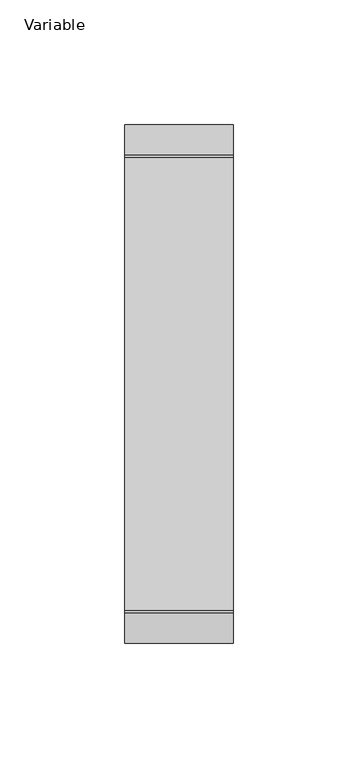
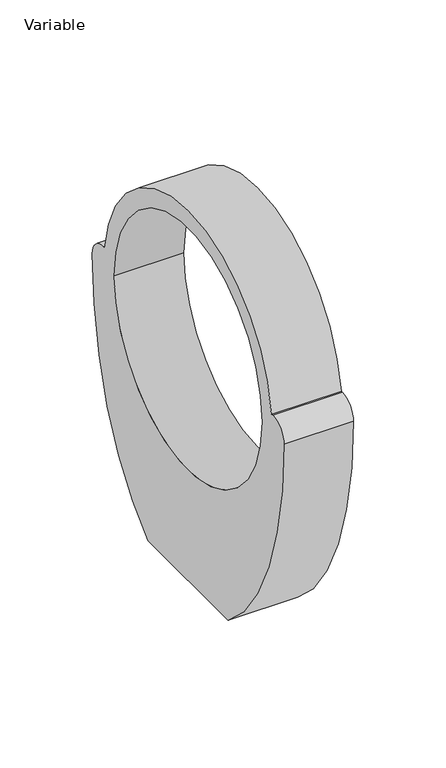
"""IFC4 building model written with IfcOpenShell, lengths in millimetres: valve geometry, AliaxisFR_Friaphon_PhonoklipBracket_FR : Variable."""

from ifc_helpers import new_model, si_unit, point, frame, origin, place, context, project, spatial, polyline, circle_curve, ellipse_curve, trimmed, source, transform, mapped, element, save
from ifc_brep_helpers import plane_surface, cylinder_surface, revolved_surface, extruded_surface, advanced_brep


def variable_1d454c51(model_context):
    return source(origin(), model_context, "Body", "AdvancedBrep", [
        advanced_brep(
        [(21.75, 43.3261702, -153.0), (21.75, 104.0, 0.0), (21.75, 92.0, 12.0), (21.75, 90.7097018, 12.0), (21.75, -90.7097018, 12.0), (21.75, -92.0, 12.0), (21.75, -104.0, 0.0), (21.75, -43.3261702, -153.0), (21.75, -80.0, 0.0), (21.75, 80.0, 0.0), (-21.75, -43.3261702, -153.0), (-21.75, -104.0, 0.0), (-21.75, -92.0, 12.0), (-21.75, -90.7097018, 12.0), (-21.75, 90.7097018, 12.0), (-21.75, 92.0, 12.0), (-21.75, 104.0, 0.0), (-21.75, 43.3261702, -153.0), (-21.75, -80.0, 0.0), (-21.75, 80.0, 0.0)],
        [
            (0, 1, ellipse_curve(frame((21.75, 0.0, 0.0), z_axis=(1.0, 0.0, 0.0), x_axis=(0.0, 0.0, 1.0)), 168.3, 104.0)),
            (1, 2, circle_curve(frame((21.75, 92.0, 0.0), z_axis=(1.0, 0.0, 0.0), x_axis=(0.0, 1.0, 0.0)), 12.0)),
            (2, 3),
            (3, 4, circle_curve(frame((21.75, 0.0, 0.0), z_axis=(1.0, 0.0, 0.0), x_axis=(0.0, 1.0, 0.0)), 91.5)),
            (4, 5),
            (5, 6, circle_curve(frame((21.75, -92.0, 0.0), z_axis=(1.0, 0.0, 0.0), x_axis=(0.0, 1.0, 0.0)), 12.0)),
            (6, 7, ellipse_curve(frame((21.75, 0.0, 0.0), z_axis=(1.0, 0.0, 0.0), x_axis=(0.0, 0.0, 1.0)), 168.3, 104.0)),
            (7, 0),
            (8, 9, circle_curve(frame((21.75, 0.0, 0.0), z_axis=(-1.0, 0.0, 0.0), x_axis=(0.0, 1.0, 0.0)), 80.0)),
            (9, 8, circle_curve(frame((21.75, 0.0, 0.0), z_axis=(-1.0, 0.0, 0.0), x_axis=(0.0, 1.0, 0.0)), 80.0)),
            (10, 11, ellipse_curve(frame((-21.75, 0.0, 0.0), z_axis=(-1.0, 0.0, 0.0), x_axis=(0.0, 0.0, 1.0)), 168.3, 104.0)),
            (11, 12, circle_curve(frame((-21.75, -92.0, 0.0), z_axis=(-1.0, 0.0, 0.0), x_axis=(0.0, 1.0, 0.0)), 12.0)),
            (12, 13),
            (13, 14, circle_curve(frame((-21.75, 0.0, 0.0), z_axis=(-1.0, 0.0, 0.0), x_axis=(0.0, 1.0, 0.0)), 91.5)),
            (14, 15),
            (15, 16, circle_curve(frame((-21.75, 92.0, 0.0), z_axis=(-1.0, 0.0, 0.0), x_axis=(0.0, 1.0, 0.0)), 12.0)),
            (16, 17, ellipse_curve(frame((-21.75, 0.0, 0.0), z_axis=(-1.0, 0.0, 0.0), x_axis=(0.0, 0.0, 1.0)), 168.3, 104.0)),
            (17, 10),
            (18, 19, circle_curve(frame((-21.75, 0.0, 0.0), z_axis=(1.0, 0.0, 0.0), x_axis=(0.0, 1.0, 0.0)), 80.0)),
            (19, 18, circle_curve(frame((-21.75, 0.0, 0.0), z_axis=(1.0, 0.0, 0.0), x_axis=(0.0, 1.0, 0.0)), 80.0)),
            (0, 17),
            (16, 1),
            (6, 11),
            (10, 7),
            (8, 18),
            (19, 9),
            (3, 14),
            (13, 4),
            (15, 2),
            (5, 12),
        ],
        [
            plane_surface(frame((21.75, 91.5, 0.0), z_axis=(1.0, 0.0, 0.0), x_axis=(0.0, 0.0, -1.0))),
            plane_surface(frame((-21.75, 91.5, 0.0), z_axis=(-1.0, 0.0, 0.0), x_axis=(0.0, 0.0, 1.0))),
            extruded_surface(trimmed(ellipse_curve(frame((-43.5, 0.0, 0.0), z_axis=(1.0, 0.0, 0.0), x_axis=(0.0, 0.0, 1.0)), 168.3, 104.0), [point((-43.5, 0.0, -168.3))], [point((-43.5, 0.0, 168.3))], True, "CARTESIAN"), (43.5, 0.0, 0.0), 43.5),
            extruded_surface(trimmed(ellipse_curve(frame((-43.5, 0.0, 0.0), z_axis=(1.0, 0.0, 0.0), x_axis=(0.0, 0.0, 1.0)), 168.3, 104.0), [point((-43.5, 0.0, 168.3))], [point((-43.5, 0.0, -168.3))], True, "CARTESIAN"), (43.5, 0.0, 0.0), 43.5),
            plane_surface(frame((21.75, 104.0, -153.0), z_axis=(0.0, 0.0, -1.0), x_axis=(-1.0, 0.0, 0.0))),
            revolved_surface(polyline([(-21.75, 80.0, 0.0), (21.75, 80.0, 0.0)]), (-21.75, 0.0, 0.0), (-1.0, 0.0, 0.0)),
            cylinder_surface(frame((0.0, 0.0, 0.0), z_axis=(1.0, 0.0, 0.0), x_axis=(0.0, 1.0, 0.0)), 91.5),
            cylinder_surface(frame((-21.75, 92.0, 0.0), z_axis=(1.0, 0.0, 0.0), x_axis=(0.0, 1.0, 0.0)), 12.0),
            cylinder_surface(frame((0.0, -92.0, 0.0), z_axis=(1.0, 0.0, 0.0), x_axis=(0.0, 1.0, 0.0)), 12.0),
            plane_surface(frame((21.75, 92.0, 12.0), z_axis=(0.0, 0.0, 1.0), x_axis=(-1.0, 0.0, 0.0))),
            plane_surface(frame((21.75, -80.0, 12.0), z_axis=(0.0, 0.0, 1.0), x_axis=(-1.0, 0.0, 0.0))),
        ],
        [
            (0, [[1, 2, 3, 4, 5, 6, 7, 8], [9, 10]]),
            (1, [[11, 12, 13, 14, 15, 16, 17, 18], [19, 20]]),
            (2, [[-1, 21, -17, 22]]),
            (3, [[-7, 23, -11, 24]]),
            (4, [[-8, -24, -18, -21]]),
            (5, [[-9, 25, -20, 26]]),
            (5, [[-10, -26, -19, -25]]),
            (6, [[-4, 27, -14, 28]]),
            (7, [[-2, -22, -16, 29]]),
            (8, [[-6, 30, -12, -23]]),
            (9, [[-29, -15, -27, -3]]),
            (10, [[-30, -5, -28, -13]]),
        ],
    ),
    ])


if __name__ == "__main__":
    model = new_model("IFC4")
    model_context = context("Model", 3, world=origin())
    ifc_project = project(units=[si_unit("LENGTHUNIT", "METRE", prefix="MILLI")], contexts=[model_context])
    site = spatial("IfcSite", under=ifc_project)
    building = spatial("IfcBuilding", under=site)
    placement = place(None, origin())
    variable_shape = variable_1d454c51(model_context)
    element("IfcValve", 1, ObjectType="AliaxisFR_Friaphon_PhonoklipBracket_FR : Variable", at=placement, inside=building, context=model_context, shape_type="MappedRepresentation", body=[
        mapped(variable_shape, transform((0.0, 0.0, 0.0), x_axis=(1.0, 0.0, 0.0), y_axis=(0.0, 1.0, 0.0), z_axis=(0.0, 0.0, 1.0))),
    ])
    save(model, "model.ifc")
